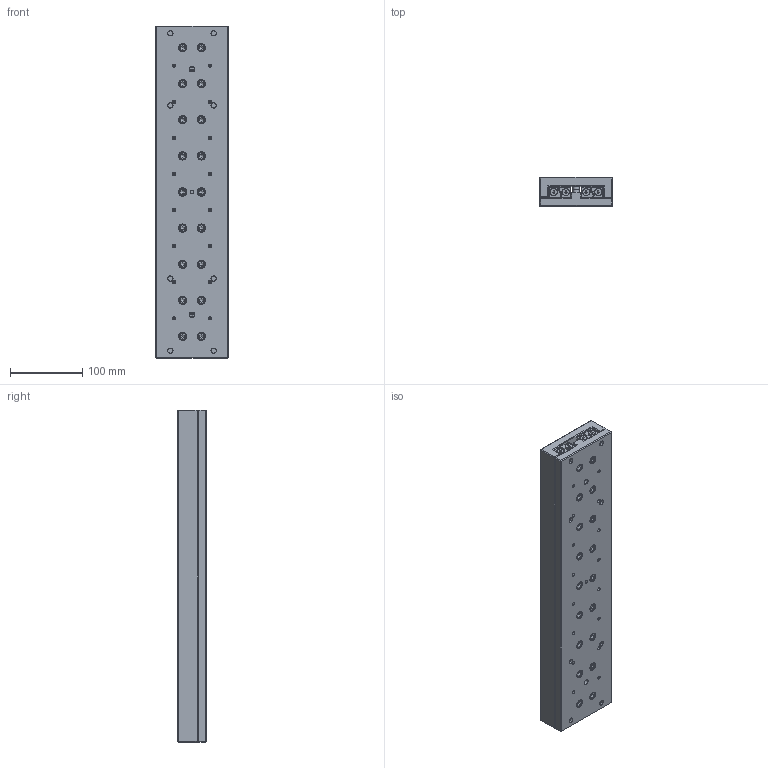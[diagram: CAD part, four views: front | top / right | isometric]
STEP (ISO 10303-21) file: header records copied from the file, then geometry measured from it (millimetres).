
FILE_DESCRIPTION(/* description */ ('Tavola TRL06 L=460 mm'),/* implementation_level */ '2;1');
FILE_NAME(/* name */ 'TRL060460-00.stp',/* time_stamp */ '2024-02-07T09:05:59+01:00',/* author */ ('Rosa sistemi'),/* organization */ (''),/* preprocessor_version */ 'ST-DEVELOPER v20',/* originating_system */ 'Autodesk Inventor 2024',/* authorisation */ '');
FILE_SCHEMA (('AUTOMOTIVE_DESIGN { 1 0 10303 214 3 1 1 }'));
Products named in the file (2): TRL060460-00; TRL060460-00_1
Assembly tree (1 placements, depth 2):
  TRL060460-00
    TRL060460-00_1
Bounding box: 100 x 40 x 460 mm (x, y, z)
Volume: 1651149.4 mm3; surface area: 336316 mm2
Topology: 16 solids, 16 shells, 2411 faces, 6327 edges, 4118 vertices
Faces by surface type: plane 1484, cylinder 355, cone 305, bspline 196, torus 71
Full cylindrical faces by diameter (mm): 1.548 x5, 4.134 x53, 4.256 x5, 6 x40, 7 x10, 8.5 x3, 9.5 x36, 9.64 x8, 10 x36, 11 x42
Entity records: 76300 total; most frequent: CARTESIAN_POINT 16319, ORIENTED_EDGE 12542, DIRECTION 11416, EDGE_CURVE 6271, VERTEX_POINT 4118, LINE 3818, VECTOR 3818, AXIS2_PLACEMENT_3D 3799
